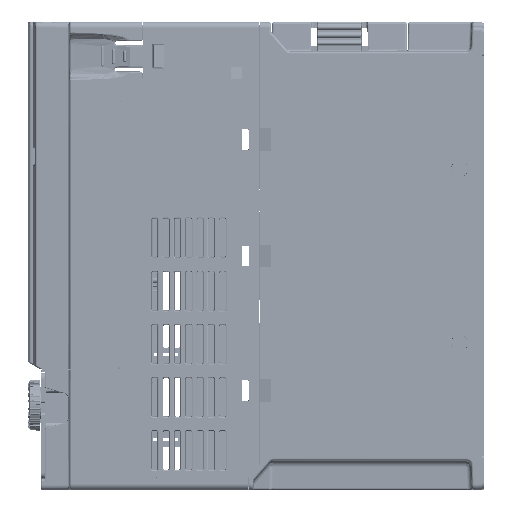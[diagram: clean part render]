
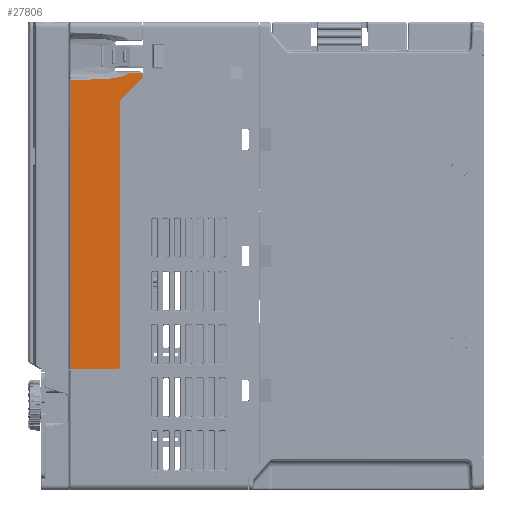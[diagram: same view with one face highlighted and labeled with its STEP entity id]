
A CAD part, left-side view. The second image highlights one B-rep face of the part: STEP entity #27806.
In plain terms, the highlighted planar face has unit normal (-1, 0, 0).
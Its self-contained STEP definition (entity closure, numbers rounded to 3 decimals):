
#15416=DIRECTION('',(0.,1.,0.));
#15417=VECTOR('',#15416,5.775);
#15418=CARTESIAN_POINT('',(0.,118.3,-22.45));
#15419=LINE('',#15418,#15417);
#15486=DIRECTION('',(0.,0.,1.));
#15487=VECTOR('',#15486,1.928);
#15488=CARTESIAN_POINT('',(0.,118.3,-24.379));
#15489=LINE('',#15488,#15487);
#15508=DIRECTION('',(0.,0.,-1.));
#15509=VECTOR('',#15508,116.758);
#15510=CARTESIAN_POINT('',(0.,128.3,-35.621));
#15511=LINE('',#15510,#15509);
#15515=DIRECTION('',(0.,1.,0.));
#15516=VECTOR('',#15515,20.402);
#15517=CARTESIAN_POINT('',(0.,129.298,
-153.378));
#15518=LINE('',#15517,#15516);
#15522=CARTESIAN_POINT('',(0.,149.7,
-25.839));
#15523=CARTESIAN_POINT('',(0.,148.772,
-25.826));
#15524=CARTESIAN_POINT('',(0.,146.987,
-25.798));
#15525=CARTESIAN_POINT('',(0.,144.527,
-25.746));
#15526=CARTESIAN_POINT('',(0.,142.266,
-25.682));
#15527=CARTESIAN_POINT('',(0.,140.191,
-25.607));
#15528=CARTESIAN_POINT('',(0.,138.288,
-25.518));
#15529=CARTESIAN_POINT('',(0.,136.545,
-25.416));
#15530=CARTESIAN_POINT('',(0.,134.95,
-25.301));
#15531=CARTESIAN_POINT('',(0.,133.496,
-25.171));
#15532=CARTESIAN_POINT('',(0.,132.168,
-25.026));
#15533=CARTESIAN_POINT('',(0.,130.955,
-24.865));
#15534=CARTESIAN_POINT('',(0.,129.854,
-24.689));
#15535=CARTESIAN_POINT('',(0.,128.858,
-24.498));
#15536=CARTESIAN_POINT('',(0.,127.96,
-24.291));
#15537=CARTESIAN_POINT('',(0.,127.158,
-24.07));
#15538=CARTESIAN_POINT('',(0.,126.446,
-23.835));
#15539=CARTESIAN_POINT('',(0.,125.815,
-23.585));
#15540=CARTESIAN_POINT('',(0.,125.26,
-23.319));
#15541=CARTESIAN_POINT('',(0.,124.785,
-23.041));
#15542=CARTESIAN_POINT('',(0.,124.386,
-22.751));
#15543=CARTESIAN_POINT('',(0.,124.17,
-22.551));
#15544=CARTESIAN_POINT('',(0.,124.075,
-22.45));
#15549=CARTESIAN_POINT('',(0.,119.5,-24.379));
#15550=DIRECTION('',(1.,0.,0.));
#15551=DIRECTION('',(0.,-1.,0.));
#15552=AXIS2_PLACEMENT_3D('',#15549,#15550,#15551);
#15557=DIRECTION('',(0.,0.707,-0.707));
#15558=VECTOR('',#15557,12.899);
#15559=CARTESIAN_POINT('',(0.,118.651,-25.227));
#15560=LINE('',#15559,#15558);
#15564=CARTESIAN_POINT('',(0.,126.5,-35.621));
#15565=DIRECTION('',(-1.,0.,0.));
#15566=DIRECTION('',(0.,0.707,0.707));
#15567=AXIS2_PLACEMENT_3D('',#15564,#15565,#15566);
#15610=CARTESIAN_POINT('',(0.,129.298,
-153.378));
#15611=CARTESIAN_POINT('',(0.,129.161,
-153.378));
#15612=CARTESIAN_POINT('',(0.,128.909,
-153.325));
#15613=CARTESIAN_POINT('',(0.,128.574,
-153.104));
#15614=CARTESIAN_POINT('',(0.,128.353,
-152.768));
#15615=CARTESIAN_POINT('',(0.,128.3,
-152.517));
#15616=CARTESIAN_POINT('',(0.,128.3,
-152.38));
#20252=DIRECTION('',(0.,0.,-1.));
#20253=VECTOR('',#20252,127.538);
#20254=CARTESIAN_POINT('',(0.,149.7,
-25.839));
#20255=LINE('',#20254,#20253);
#23768=CARTESIAN_POINT('',(0.,124.075,-22.45));
#23770=VERTEX_POINT('',#23768);
#23774=CARTESIAN_POINT('',(0.,118.3,-22.45));
#23775=VERTEX_POINT('',#23774);
#23782=CARTESIAN_POINT('',(0.,118.3,-24.379));
#23783=VERTEX_POINT('',#23782);
#23786=CARTESIAN_POINT('',(0.,128.3,-35.621));
#23787=CARTESIAN_POINT('',(0.,128.3,
-152.38));
#23788=VERTEX_POINT('',#23786);
#23789=VERTEX_POINT('',#23787);
#23790=VERTEX_POINT('',#15610);
#23791=CARTESIAN_POINT('',(0.,149.7,
-153.376));
#23792=VERTEX_POINT('',#23791);
#23793=CARTESIAN_POINT('',(0.,149.7,
-25.839));
#23794=VERTEX_POINT('',#23793);
#23795=CARTESIAN_POINT('',(0.,118.651,-25.227));
#23796=VERTEX_POINT('',#23795);
#23797=CARTESIAN_POINT('',(0.,127.773,-34.349));
#23798=VERTEX_POINT('',#23797);
#27781=CARTESIAN_POINT('',(0.,112.,-153.4));
#27782=DIRECTION('',(-1.,0.,0.));
#27783=DIRECTION('',(0.,0.,1.));
#27784=AXIS2_PLACEMENT_3D('',#27781,#27782,#27783);
#27785=PLANE('',#27784);
#27787=ORIENTED_EDGE('',*,*,#27786,.T.);
#27789=ORIENTED_EDGE('',*,*,#27788,.F.);
#27791=ORIENTED_EDGE('',*,*,#27790,.T.);
#27793=ORIENTED_EDGE('',*,*,#27792,.F.);
#27795=ORIENTED_EDGE('',*,*,#27794,.T.);
#27796=ORIENTED_EDGE('',*,*,#27737,.F.);
#27797=ORIENTED_EDGE('',*,*,#27770,.F.);
#27799=ORIENTED_EDGE('',*,*,#27798,.T.);
#27801=ORIENTED_EDGE('',*,*,#27800,.T.);
#27803=ORIENTED_EDGE('',*,*,#27802,.T.);
#27804=EDGE_LOOP('',(#27787,#27789,#27791,#27793,#27795,#27796,#27797,#27799,
#27801,#27803));
#27805=FACE_OUTER_BOUND('',#27804,.F.);
#15545=B_SPLINE_CURVE_WITH_KNOTS('',3,(#15522,#15523,#15524,#15525,#15526,
#15527,#15528,#15529,#15530,#15531,#15532,#15533,#15534,#15535,#15536,#15537,
#15538,#15539,#15540,#15541,#15542,#15543,#15544),.UNSPECIFIED.,.F.,.F.,(4,1,1,
1,1,1,1,1,1,1,1,1,1,1,1,1,1,1,1,1,4),(0.,0.05,0.1,0.15,0.2,0.25,
0.3,0.35,0.4,0.45,0.5,0.55,0.6,0.65,0.7,0.75,0.8,0.85,
0.9,0.95,1.),.UNSPECIFIED.);
#15553=CIRCLE('',#15552,1.2);
#15568=CIRCLE('',#15567,1.8);
#15617=B_SPLINE_CURVE_WITH_KNOTS('',3,(#15610,#15611,#15612,#15613,#15614,
#15615,#15616),.UNSPECIFIED.,.F.,.F.,(4,1,1,1,4),(0.,0.25,0.5,0.75,
1.),.UNSPECIFIED.);
#27737=EDGE_CURVE('',#23775,#23770,#15419,.T.);
#27770=EDGE_CURVE('',#23783,#23775,#15489,.T.);
#27786=EDGE_CURVE('',#23788,#23789,#15511,.T.);
#27788=EDGE_CURVE('',#23790,#23789,#15617,.T.);
#27790=EDGE_CURVE('',#23790,#23792,#15518,.T.);
#27792=EDGE_CURVE('',#23794,#23792,#20255,.T.);
#27794=EDGE_CURVE('',#23794,#23770,#15545,.T.);
#27798=EDGE_CURVE('',#23783,#23796,#15553,.T.);
#27800=EDGE_CURVE('',#23796,#23798,#15560,.T.);
#27802=EDGE_CURVE('',#23798,#23788,#15568,.T.);
#27806=ADVANCED_FACE('',(#27805),#27785,.T.);
